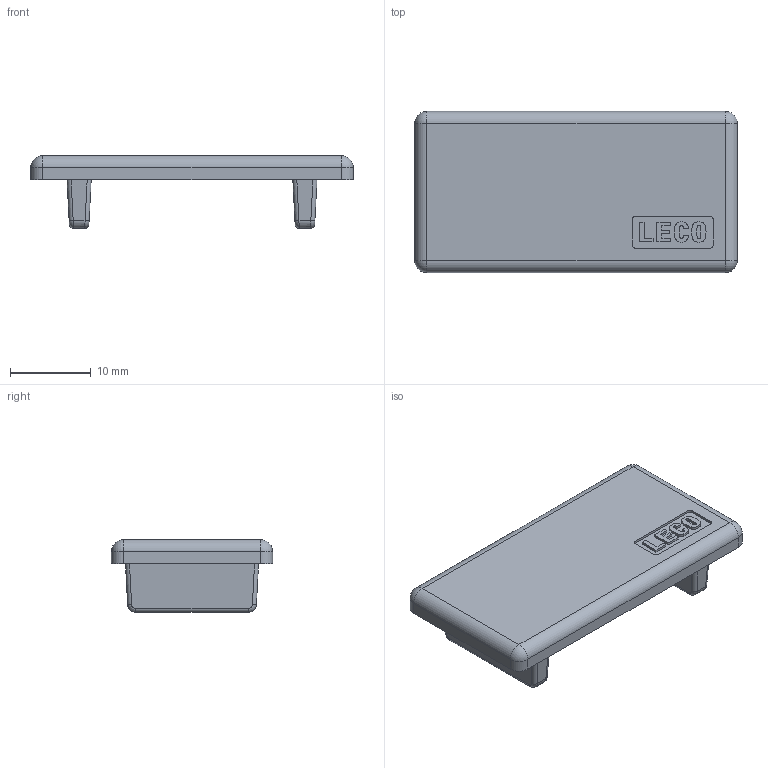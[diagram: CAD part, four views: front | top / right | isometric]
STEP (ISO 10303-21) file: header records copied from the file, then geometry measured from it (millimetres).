
FILE_DESCRIPTION(('STEP AP214'),'1');
FILE_NAME('EP24.stp','2017-07-24T04:50:17',(' '),(' '),'Spatial InterOp 3D',' ',' ');
FILE_SCHEMA(('automotive_design'));
Length unit declared in the file: millimetre
Products named in the file (1): EP24
Bounding box: 40 x 20 x 9 mm (x, y, z)
Volume: 2824.5 mm3; surface area: 2343.9 mm2
Topology: 1 solids, 1 shells, 138 faces, 352 edges, 220 vertices
Faces by surface type: plane 66, cylinder 60, bspline 8, sphere 4
Entity records: 5644 total; most frequent: CARTESIAN_POINT 1131, DIRECTION 738, ORIENTED_EDGE 696, EDGE_CURVE 348, AXIS2_PLACEMENT_3D 259, VERTEX_POINT 220, LINE 220, VECTOR 220
